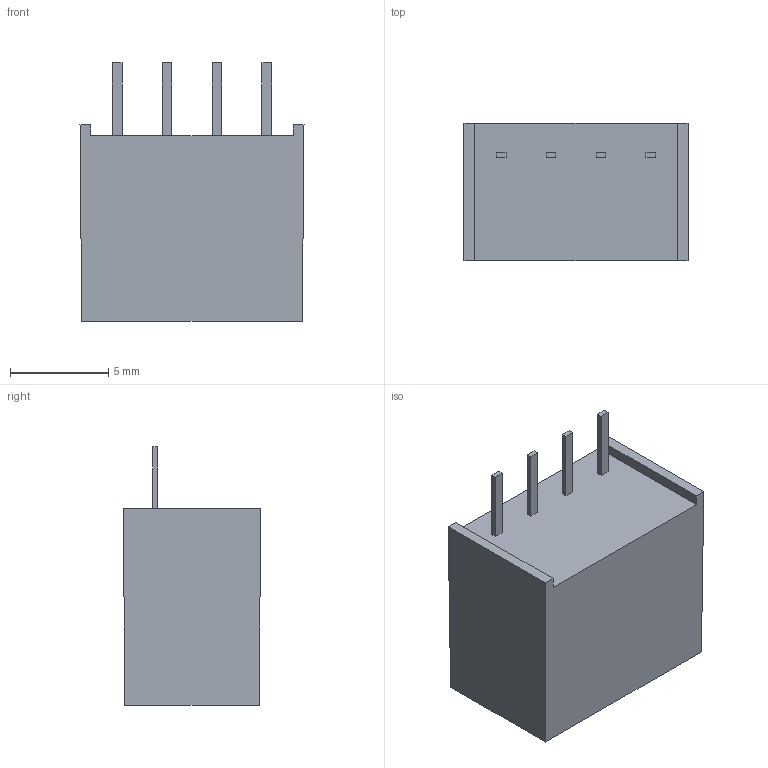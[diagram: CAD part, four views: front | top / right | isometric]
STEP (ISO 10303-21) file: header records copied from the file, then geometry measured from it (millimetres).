
FILE_DESCRIPTION(/* description */ (''),/* implementation_level */ '2;1');
FILE_NAME(/* name */ 'C:\Users\CALLIOPE\Documents\Inventor\機台模治具\型錄用3D尺寸外觀\型錄用-STEP檔\MBU100(24V).stp',/* time_stamp */ '2015-03-12T18:25:03+08:00',/* author */ ('CALLIOPE'),/* organization */ (''),/* preprocessor_version */ 'ST-DEVELOPER v15.6',/* originating_system */ 'Autodesk Inventor 2015',/* authorisation */ '');
FILE_SCHEMA (('AUTOMOTIVE_DESIGN { 1 0 10303 214 3 1 1 }'));
Length unit declared in the file: millimetre
Products named in the file (1): MBU100(24V)
Bounding box: 11.4 x 7 x 13.15 mm (x, y, z)
Volume: 744.3 mm3; surface area: 539.4 mm2
Topology: 1 solids, 1 shells, 30 faces, 72 edges, 48 vertices
Faces by surface type: plane 30
Entity records: 880 total; most frequent: CARTESIAN_POINT 151, ORIENTED_EDGE 144, DIRECTION 134, LINE 72, VECTOR 72, EDGE_CURVE 72, VERTEX_POINT 48, EDGE_LOOP 34
